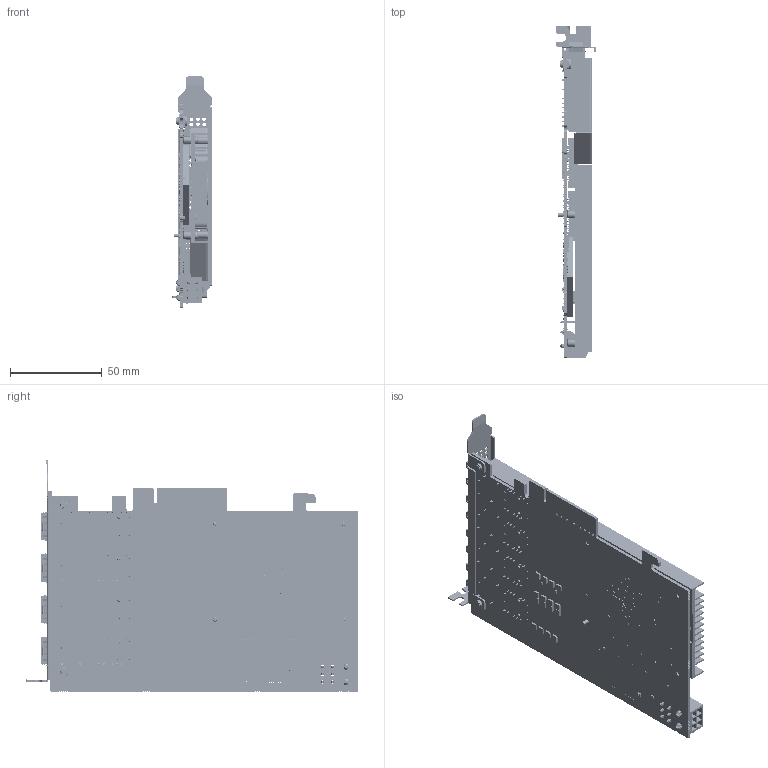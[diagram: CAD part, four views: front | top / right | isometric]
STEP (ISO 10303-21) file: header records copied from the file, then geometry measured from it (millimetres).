
FILE_DESCRIPTION((''),'2;1');
FILE_NAME('00--0002_ASM','2022-07-08T10:11:34',('qinyangfan'),(''),'CREO PARAMETRIC BY PTC INC, 2020044','CREO PARAMETRIC BY PTC INC, 2020044','');
FILE_SCHEMA(('CONFIG_CONTROL_DESIGN'));
Products named in the file (19): DE-11-024101; SC-P0M3X4-GB818; 101301177-ZZ; 101304647; ST-D44-D21-F23-C000; MV-20190REV10-2021042316-202104; CXP120001_38_1; YB4007-CS-00_1_1_1_1_1_1; YB4007-GAI_5__2_1_1_1_1_1; YB4007_ASM_3__ASM_1_ASM_1_1_ASM_ASM; YB4007-YE_1__1_1_1_1_1_1; YB4007-LAYOUT__ASM_1_ASM_1_1_AS_ASM; 00_ASM_1_1_ASM_1_ASM_1_ASM_1_ASM; 00_ASM_1_1_ASM_1_ASM_ASM_1_ASM; HEATSINK_ASM_1_ASM; HEATSINK_ASM_ASM; SC-P0M2X5B-GB818; DE-11-029814; 00--0002_ASM
Assembly tree (29 placements, depth 8):
  00--0002_ASM
    DE-11-024101
    SC-P0M3X4-GB818  x2
    101301177-ZZ  x4
    101304647
    ST-D44-D21-F23-C000  x4
    MV-20190REV10-2021042316-202104
    HEATSINK_ASM_ASM
      HEATSINK_ASM_1_ASM
        CXP120001_38_1
        00_ASM_1_1_ASM_1_ASM_ASM_1_ASM
          00_ASM_1_1_ASM_1_ASM_1_ASM_1_ASM
            YB4007-LAYOUT__ASM_1_ASM_1_1_AS_ASM
              YB4007_ASM_3__ASM_1_ASM_1_1_ASM_ASM
                YB4007-CS-00_1_1_1_1_1_1
                YB4007-GAI_5__2_1_1_1_1_1
              YB4007-YE_1__1_1_1_1_1_1
    SC-P0M2X5B-GB818  x5
    DE-11-029814
Bounding box: 21.59 x 180.98 x 126.3 mm (x, y, z)
Volume: 70896.6 mm3; surface area: 145045.7 mm2
Topology: 37 solids, 176 shells, 23950 faces, 68783 edges, 43774 vertices
Faces by surface type: plane 17284, cylinder 6124, sphere 280, cone 171, torus 42, extrusion 33, bspline 16
Entity records: 564930 total; most frequent: CARTESIAN_POINT 110618, ORIENTED_EDGE 96596, DIRECTION 90464, EDGE_CURVE 49399, VECTOR 38010, LINE 37989, VERTEX_POINT 30854, AXIS2_PLACEMENT_3D 26227
